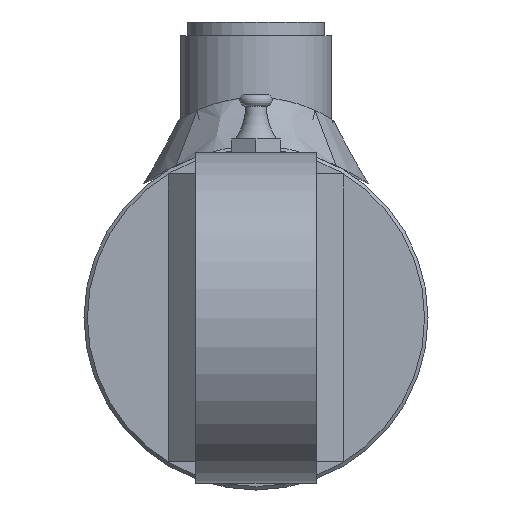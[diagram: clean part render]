
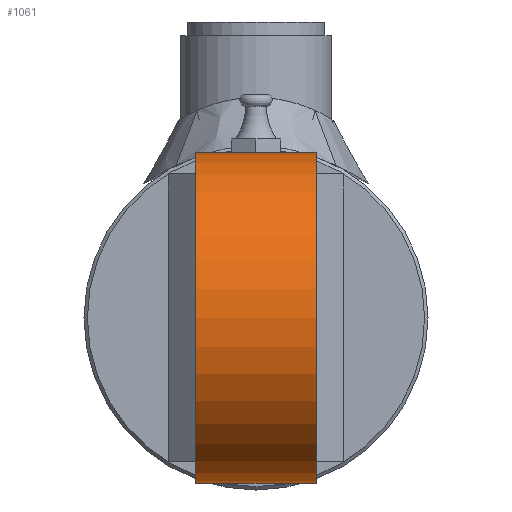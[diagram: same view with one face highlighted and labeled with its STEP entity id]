
A CAD part, left-side view. The second image highlights one B-rep face of the part: STEP entity #1061.
In plain terms, the highlighted cylindrical face has radius 24 mm (diameter 48 mm), a partial arc.
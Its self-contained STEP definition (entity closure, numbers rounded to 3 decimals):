
#1061 = ADVANCED_FACE( '', ( #1942 ), #1943, .T. );
#1942 = FACE_OUTER_BOUND( '', #3339, .T. );
#1943 = CYLINDRICAL_SURFACE( '', #3340, 24. );
#3339 = EDGE_LOOP( '', ( #6541, #6542, #6543, #6544 ) );
#3340 = AXIS2_PLACEMENT_3D( '', #6545, #6546, #6547 );
#6541 = ORIENTED_EDGE( '', *, *, #8173, .T. );
#6542 = ORIENTED_EDGE( '', *, *, #8174, .F. );
#6543 = ORIENTED_EDGE( '', *, *, #8175, .F. );
#6544 = ORIENTED_EDGE( '', *, *, #8165, .T. );
#6545 = CARTESIAN_POINT( '', ( 35., -8.75, 0. ) );
#6546 = DIRECTION( '', ( 0., -1., 0. ) );
#6547 = DIRECTION( '', ( 0., 0., 1. ) );
#8165 = EDGE_CURVE( '', #9131, #9133, #9135, .T. );
#8173 = EDGE_CURVE( '', #9133, #9146, #9147, .T. );
#8174 = EDGE_CURVE( '', #9148, #9146, #9149, .T. );
#8175 = EDGE_CURVE( '', #9131, #9148, #9150, .T. );
#9131 = VERTEX_POINT( '', #10262 );
#9133 = VERTEX_POINT( '', #10265 );
#9135 = LINE( '', #10268, #10269 );
#9146 = VERTEX_POINT( '', #10280 );
#9147 = CIRCLE( '', #10281, 24. );
#9148 = VERTEX_POINT( '', #10282 );
#9149 = LINE( '', #10283, #10284 );
#9150 = CIRCLE( '', #10285, 24. );
#10262 = CARTESIAN_POINT( '', ( 35., -8.75, -24. ) );
#10265 = CARTESIAN_POINT( '', ( 35., 8.75, -24. ) );
#10268 = CARTESIAN_POINT( '', ( 35., -8.75, -24. ) );
#10269 = VECTOR( '', #12170, 1000. );
#10280 = CARTESIAN_POINT( '', ( 35., 8.75, 24. ) );
#10281 = AXIS2_PLACEMENT_3D( '', #12180, #12181, #12182 );
#10282 = CARTESIAN_POINT( '', ( 35., -8.75, 24. ) );
#10283 = CARTESIAN_POINT( '', ( 35., -8.75, 24. ) );
#10284 = VECTOR( '', #12183, 1000. );
#10285 = AXIS2_PLACEMENT_3D( '', #12184, #12185, #12186 );
#12170 = DIRECTION( '', ( 0., 1., 0. ) );
#12180 = CARTESIAN_POINT( '', ( 35., 8.75, 0. ) );
#12181 = DIRECTION( '', ( 0., -1., 0. ) );
#12182 = DIRECTION( '', ( -1., 0., 0. ) );
#12183 = DIRECTION( '', ( 0., 1., 0. ) );
#12184 = CARTESIAN_POINT( '', ( 35., -8.75, 0. ) );
#12185 = DIRECTION( '', ( 0., -1., 0. ) );
#12186 = DIRECTION( '', ( -1., 0., 0. ) );
